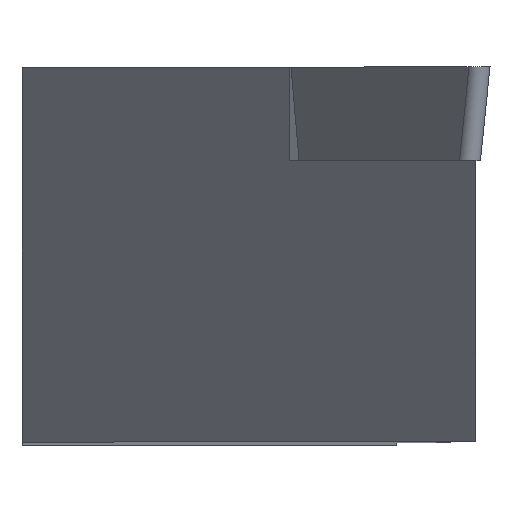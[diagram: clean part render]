
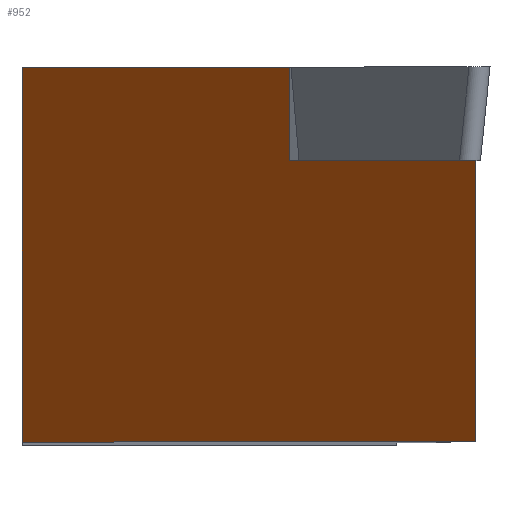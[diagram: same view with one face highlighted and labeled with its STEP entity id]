
A CAD part, top view. The second image highlights one B-rep face of the part: STEP entity #952.
In plain terms, the highlighted planar face has unit normal (-0.788, 0, 0.616).
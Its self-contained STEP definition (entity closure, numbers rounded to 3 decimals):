
#6 = VERTEX_POINT ( 'NONE', #69 ) ;
#41 = CARTESIAN_POINT ( 'NONE',  ( 1.144, 3.17, -9.215 ) ) ;
#68 = VERTEX_POINT ( 'NONE', #816 ) ;
#69 = CARTESIAN_POINT ( 'NONE',  ( 1.144, 6.35, -9.215 ) ) ;
#89 = LINE ( 'NONE', #407, #999 ) ;
#100 = VECTOR ( 'NONE', #497, 1000. ) ;
#101 = CARTESIAN_POINT ( 'NONE',  ( -20.042, 6.35, -36.331 ) ) ;
#110 = LINE ( 'NONE', #130, #743 ) ;
#111 = VERTEX_POINT ( 'NONE', #570 ) ;
#130 = CARTESIAN_POINT ( 'NONE',  ( -7.938, 6.35, -20.838 ) ) ;
#145 = CARTESIAN_POINT ( 'NONE',  ( -20.042, -6.35, -36.331 ) ) ;
#180 = ORIENTED_EDGE ( 'NONE', *, *, #706, .F. ) ;
#182 = DIRECTION ( 'NONE',  ( -0.616, 0., -0.788 ) ) ;
#190 = EDGE_CURVE ( 'NONE', #596, #68, #89, .T. ) ;
#253 = LINE ( 'NONE', #423, #687 ) ;
#282 = ORIENTED_EDGE ( 'NONE', *, *, #190, .F. ) ;
#311 = CARTESIAN_POINT ( 'NONE',  ( -7.938, -6.35, -20.838 ) ) ;
#321 = EDGE_CURVE ( 'NONE', #6, #596, #525, .T. ) ;
#350 = EDGE_CURVE ( 'NONE', #111, #68, #253, .T. ) ;
#371 = VERTEX_POINT ( 'NONE', #579 ) ;
#384 = EDGE_CURVE ( 'NONE', #6, #371, #564, .T. ) ;
#407 = CARTESIAN_POINT ( 'NONE',  ( 8.208, 3.17, -0.173 ) ) ;
#410 = LINE ( 'NONE', #612, #845 ) ;
#423 = CARTESIAN_POINT ( 'NONE',  ( 7.448, -6.35, -1.146 ) ) ;
#496 = ORIENTED_EDGE ( 'NONE', *, *, #384, .T. ) ;
#497 = DIRECTION ( 'NONE',  ( 0., -1., 0. ) ) ;
#525 = LINE ( 'NONE', #577, #100 ) ;
#535 = DIRECTION ( 'NONE',  ( -0.616, 0., -0.788 ) ) ;
#540 = AXIS2_PLACEMENT_3D ( 'NONE', #145, #546, #715 ) ;
#546 = DIRECTION ( 'NONE',  ( 0.788, 0., -0.616 ) ) ;
#564 = LINE ( 'NONE', #101, #830 ) ;
#570 = CARTESIAN_POINT ( 'NONE',  ( 7.448, -6.35, -1.146 ) ) ;
#577 = CARTESIAN_POINT ( 'NONE',  ( 1.144, 4.67, -9.215 ) ) ;
#579 = CARTESIAN_POINT ( 'NONE',  ( -7.938, 6.35, -20.838 ) ) ;
#596 = VERTEX_POINT ( 'NONE', #41 ) ;
#612 = CARTESIAN_POINT ( 'NONE',  ( -20.042, -6.35, -36.331 ) ) ;
#624 = ORIENTED_EDGE ( 'NONE', *, *, #682, .T. ) ;
#626 = FACE_OUTER_BOUND ( 'NONE', #928, .T. ) ;
#627 = ORIENTED_EDGE ( 'NONE', *, *, #321, .F. ) ;
#682 = EDGE_CURVE ( 'NONE', #371, #858, #110, .T. ) ;
#687 = VECTOR ( 'NONE', #985, 1000. ) ;
#699 = DIRECTION ( 'NONE',  ( 0., -1., 0. ) ) ;
#706 = EDGE_CURVE ( 'NONE', #111, #858, #410, .T. ) ;
#715 = DIRECTION ( 'NONE',  ( -0.616, 0., -0.788 ) ) ;
#743 = VECTOR ( 'NONE', #699, 1000. ) ;
#768 = ORIENTED_EDGE ( 'NONE', *, *, #350, .T. ) ;
#816 = CARTESIAN_POINT ( 'NONE',  ( 7.448, 3.17, -1.146 ) ) ;
#830 = VECTOR ( 'NONE', #182, 1000. ) ;
#845 = VECTOR ( 'NONE', #535, 1000. ) ;
#858 = VERTEX_POINT ( 'NONE', #311 ) ;
#899 = DIRECTION ( 'NONE',  ( 0.616, 0., 0.788 ) ) ;
#928 = EDGE_LOOP ( 'NONE', ( #624, #180, #768, #282, #627, #496 ) ) ;
#952 = ADVANCED_FACE ( 'NONE', ( #626 ), #1018, .F. ) ;
#985 = DIRECTION ( 'NONE',  ( 0., 1., 0. ) ) ;
#999 = VECTOR ( 'NONE', #899, 1000. ) ;
#1018 = PLANE ( 'NONE',  #540 ) ;
